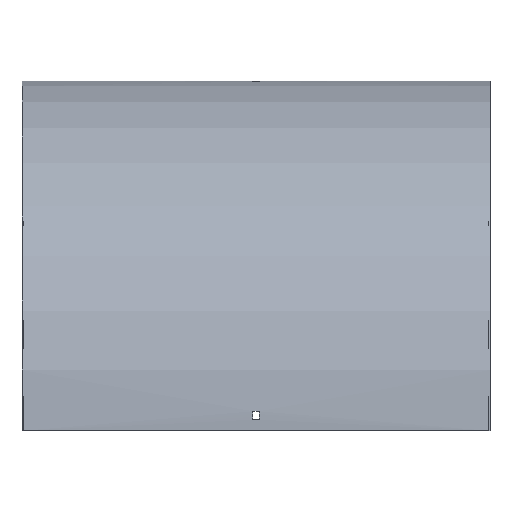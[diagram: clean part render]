
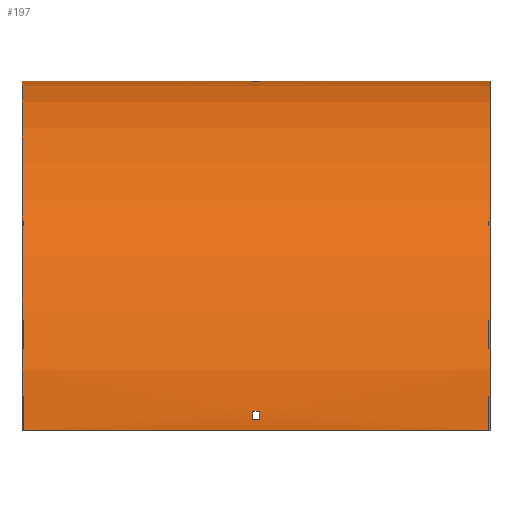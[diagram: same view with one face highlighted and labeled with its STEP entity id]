
A CAD part, top view. The second image highlights one B-rep face of the part: STEP entity #197.
In plain terms, the highlighted cylindrical face has radius 376.5 mm (diameter 753 mm), a partial arc.
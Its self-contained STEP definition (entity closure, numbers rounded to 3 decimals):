
#3 = EDGE_CURVE ( 'NONE', #157, #542, #330, .T. ) ;
#4 = ORIENTED_EDGE ( 'NONE', *, *, #284, .T. ) ;
#29 = FACE_BOUND ( 'NONE', #375, .T. ) ;
#42 = CARTESIAN_POINT ( 'NONE',  ( 251.5, -355.5, 375.914 ) ) ;
#65 = VECTOR ( 'NONE', #539, 1000. ) ;
#68 = AXIS2_PLACEMENT_3D ( 'NONE', #354, #123, #488 ) ;
#69 = DIRECTION ( 'NONE',  ( -1., 0., 0. ) ) ;
#71 = VERTEX_POINT ( 'NONE', #572 ) ;
#75 = FACE_BOUND ( 'NONE', #461, .T. ) ;
#84 = DIRECTION ( 'NONE',  ( -1., 0., 0. ) ) ;
#90 = CIRCLE ( 'NONE', #125, 376.5 ) ;
#91 = CARTESIAN_POINT ( 'NONE',  ( 251.5, -364.5, 376.309 ) ) ;
#98 = VERTEX_POINT ( 'NONE', #110 ) ;
#102 = VECTOR ( 'NONE', #342, 1000. ) ;
#106 = VERTEX_POINT ( 'NONE', #528 ) ;
#108 = CARTESIAN_POINT ( 'NONE',  ( 251.5, -0.586, 21. ) ) ;
#110 = CARTESIAN_POINT ( 'NONE',  ( 251.5, -376.5, 376.5 ) ) ;
#112 = VECTOR ( 'NONE', #84, 1000. ) ;
#120 = DIRECTION ( 'NONE',  ( 0., 0., -1. ) ) ;
#122 = ORIENTED_EDGE ( 'NONE', *, *, #433, .F. ) ;
#123 = DIRECTION ( 'NONE',  ( 1., 0., 0. ) ) ;
#125 = AXIS2_PLACEMENT_3D ( 'NONE', #272, #365, #275 ) ;
#137 = CARTESIAN_POINT ( 'NONE',  ( -251.5, 0., 0. ) ) ;
#139 = DIRECTION ( 'NONE',  ( -1., 0., 0. ) ) ;
#142 = LINE ( 'NONE', #205, #177 ) ;
#144 = AXIS2_PLACEMENT_3D ( 'NONE', #174, #230, #226 ) ;
#146 = CARTESIAN_POINT ( 'NONE',  ( -3.25, -0.191, 12. ) ) ;
#147 = AXIS2_PLACEMENT_3D ( 'NONE', #530, #311, #120 ) ;
#153 = CARTESIAN_POINT ( 'NONE',  ( -3.25, -376.5, 0. ) ) ;
#155 = CARTESIAN_POINT ( 'NONE',  ( 3.25, -376.5, 0. ) ) ;
#157 = VERTEX_POINT ( 'NONE', #595 ) ;
#161 = CIRCLE ( 'NONE', #68, 376.5 ) ;
#172 = DIRECTION ( 'NONE',  ( 0., 0., -1. ) ) ;
#174 = CARTESIAN_POINT ( 'NONE',  ( 251.5, -376.5, 0. ) ) ;
#177 = VECTOR ( 'NONE', #328, 1000. ) ;
#181 = EDGE_LOOP ( 'NONE', ( #216, #229, #122, #317 ) ) ;
#184 = EDGE_CURVE ( 'NONE', #542, #426, #90, .T. ) ;
#187 = CIRCLE ( 'NONE', #413, 376.5 ) ;
#188 = VERTEX_POINT ( 'NONE', #544 ) ;
#190 = ORIENTED_EDGE ( 'NONE', *, *, #236, .F. ) ;
#191 = DIRECTION ( 'NONE',  ( 0., 0., 1. ) ) ;
#192 = DIRECTION ( 'NONE',  ( -1., 0., 0. ) ) ;
#196 = VERTEX_POINT ( 'NONE', #137 ) ;
#197 = ADVANCED_FACE ( 'NONE', ( #453, #75, #29 ), #319, .T. ) ;
#205 = CARTESIAN_POINT ( 'NONE',  ( 251.5, -0.191, 12. ) ) ;
#210 = LINE ( 'NONE', #258, #65 ) ;
#216 = ORIENTED_EDGE ( 'NONE', *, *, #232, .T. ) ;
#217 = CIRCLE ( 'NONE', #545, 376.5 ) ;
#226 = DIRECTION ( 'NONE',  ( 0., 0., 1. ) ) ;
#229 = ORIENTED_EDGE ( 'NONE', *, *, #538, .F. ) ;
#230 = DIRECTION ( 'NONE',  ( -1., 0., 0. ) ) ;
#232 = EDGE_CURVE ( 'NONE', #196, #585, #161, .T. ) ;
#233 = CIRCLE ( 'NONE', #297, 376.5 ) ;
#236 = EDGE_CURVE ( 'NONE', #591, #157, #217, .T. ) ;
#242 = EDGE_CURVE ( 'NONE', #577, #188, #142, .T. ) ;
#258 = CARTESIAN_POINT ( 'NONE',  ( 251.5, -376.5, 376.5 ) ) ;
#271 = ORIENTED_EDGE ( 'NONE', *, *, #3, .F. ) ;
#272 = CARTESIAN_POINT ( 'NONE',  ( -3.25, -376.5, 0. ) ) ;
#273 = ORIENTED_EDGE ( 'NONE', *, *, #242, .T. ) ;
#275 = DIRECTION ( 'NONE',  ( 0., 1., 0. ) ) ;
#278 = LINE ( 'NONE', #91, #102 ) ;
#284 = EDGE_CURVE ( 'NONE', #71, #577, #187, .T. ) ;
#297 = AXIS2_PLACEMENT_3D ( 'NONE', #155, #576, #172 ) ;
#311 = DIRECTION ( 'NONE',  ( 1., 0., 0. ) ) ;
#317 = ORIENTED_EDGE ( 'NONE', *, *, #363, .T. ) ;
#319 = CYLINDRICAL_SURFACE ( 'NONE', #144, 376.5 ) ;
#322 = CARTESIAN_POINT ( 'NONE',  ( 251.5, 0., 0. ) ) ;
#327 = CIRCLE ( 'NONE', #147, 376.5 ) ;
#328 = DIRECTION ( 'NONE',  ( 1., 0., 0. ) ) ;
#330 = LINE ( 'NONE', #42, #504 ) ;
#342 = DIRECTION ( 'NONE',  ( 1., 0., 0. ) ) ;
#353 = ORIENTED_EDGE ( 'NONE', *, *, #494, .T. ) ;
#354 = CARTESIAN_POINT ( 'NONE',  ( -251.5, -376.5, 0. ) ) ;
#362 = EDGE_CURVE ( 'NONE', #426, #591, #278, .T. ) ;
#363 = EDGE_CURVE ( 'NONE', #106, #196, #550, .T. ) ;
#365 = DIRECTION ( 'NONE',  ( 1., 0., 0. ) ) ;
#375 = EDGE_LOOP ( 'NONE', ( #558, #271, #190, #485 ) ) ;
#382 = CARTESIAN_POINT ( 'NONE',  ( 3.25, -376.5, 0. ) ) ;
#389 = LINE ( 'NONE', #108, #408 ) ;
#408 = VECTOR ( 'NONE', #69, 1000. ) ;
#413 = AXIS2_PLACEMENT_3D ( 'NONE', #153, #513, #191 ) ;
#421 = CARTESIAN_POINT ( 'NONE',  ( -251.5, -376.5, 376.5 ) ) ;
#426 = VERTEX_POINT ( 'NONE', #535 ) ;
#433 = EDGE_CURVE ( 'NONE', #106, #98, #327, .T. ) ;
#453 = FACE_OUTER_BOUND ( 'NONE', #181, .T. ) ;
#461 = EDGE_LOOP ( 'NONE', ( #353, #4, #273, #510 ) ) ;
#472 = DIRECTION ( 'NONE',  ( 0., 0., 1. ) ) ;
#485 = ORIENTED_EDGE ( 'NONE', *, *, #362, .F. ) ;
#488 = DIRECTION ( 'NONE',  ( 0., 0., -1. ) ) ;
#494 = EDGE_CURVE ( 'NONE', #571, #71, #389, .T. ) ;
#497 = CARTESIAN_POINT ( 'NONE',  ( 3.25, -364.5, 376.309 ) ) ;
#498 = EDGE_CURVE ( 'NONE', #188, #571, #233, .T. ) ;
#504 = VECTOR ( 'NONE', #192, 1000. ) ;
#510 = ORIENTED_EDGE ( 'NONE', *, *, #498, .T. ) ;
#513 = DIRECTION ( 'NONE',  ( -1., 0., 0. ) ) ;
#528 = CARTESIAN_POINT ( 'NONE',  ( 251.5, 0., 0. ) ) ;
#529 = CARTESIAN_POINT ( 'NONE',  ( -3.25, -355.5, 375.914 ) ) ;
#530 = CARTESIAN_POINT ( 'NONE',  ( 251.5, -376.5, 0. ) ) ;
#535 = CARTESIAN_POINT ( 'NONE',  ( -3.25, -364.5, 376.309 ) ) ;
#538 = EDGE_CURVE ( 'NONE', #98, #585, #210, .T. ) ;
#539 = DIRECTION ( 'NONE',  ( -1., 0., 0. ) ) ;
#542 = VERTEX_POINT ( 'NONE', #529 ) ;
#544 = CARTESIAN_POINT ( 'NONE',  ( 3.25, -0.191, 12. ) ) ;
#545 = AXIS2_PLACEMENT_3D ( 'NONE', #382, #139, #472 ) ;
#550 = LINE ( 'NONE', #322, #112 ) ;
#558 = ORIENTED_EDGE ( 'NONE', *, *, #184, .F. ) ;
#571 = VERTEX_POINT ( 'NONE', #593 ) ;
#572 = CARTESIAN_POINT ( 'NONE',  ( -3.25, -0.586, 21. ) ) ;
#576 = DIRECTION ( 'NONE',  ( 1., 0., 0. ) ) ;
#577 = VERTEX_POINT ( 'NONE', #146 ) ;
#585 = VERTEX_POINT ( 'NONE', #421 ) ;
#591 = VERTEX_POINT ( 'NONE', #497 ) ;
#593 = CARTESIAN_POINT ( 'NONE',  ( 3.25, -0.586, 21. ) ) ;
#595 = CARTESIAN_POINT ( 'NONE',  ( 3.25, -355.5, 375.914 ) ) ;
